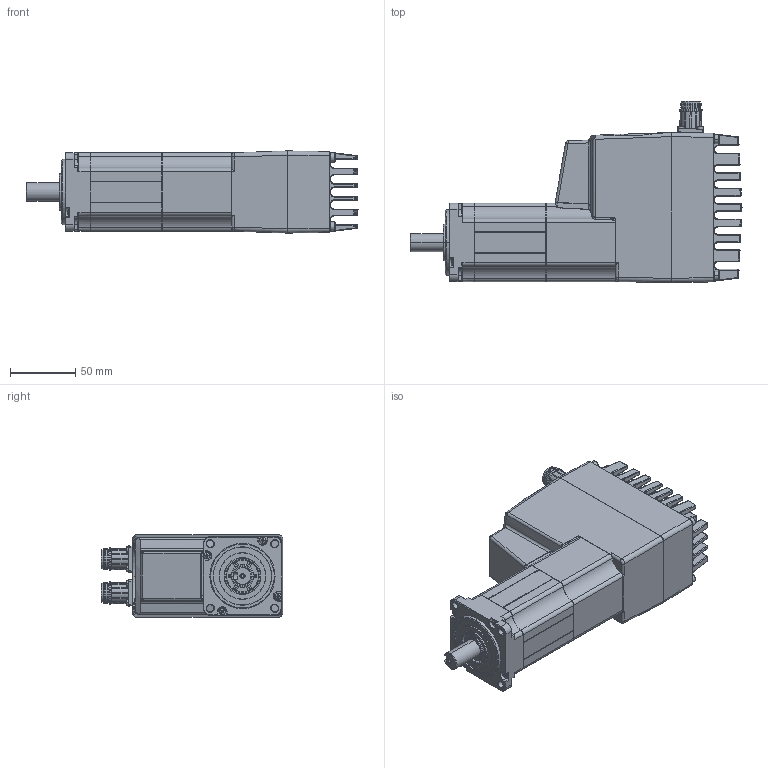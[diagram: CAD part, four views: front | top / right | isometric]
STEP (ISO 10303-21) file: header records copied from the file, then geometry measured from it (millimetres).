
FILE_DESCRIPTION((''),'2;1');
FILE_NAME('STEPPERASSY_ASM','2022-08-13T13:39:31',('Administrator'),(''),'CREO PARAMETRIC BY PTC INC, 2022014','CREO PARAMETRIC BY PTC INC, 2022014','');
FILE_SCHEMA(('AUTOMOTIVE_DESIGN { 1 0 10303 214 1 1 1 1 }'));
Products named in the file (8): NEW_REAR_PART; 400_F; SHAFT_KEY; NEW_CONNECTORS; FINS_BOLT_NEW; 400_BEARING; MAC400_ASM; STEPPERASSY_ASM
Assembly tree (10 placements, depth 3):
  STEPPERASSY_ASM
    MAC400_ASM
      NEW_REAR_PART
      400_F
      SHAFT_KEY
      NEW_CONNECTORS
      FINS_BOLT_NEW  x4
      400_BEARING
Bounding box: 254.5 x 138.87 x 63 mm (x, y, z)
Volume: 1001829.7 mm3; surface area: 145824.1 mm2
Topology: 10 solids, 23 shells, 3379 faces, 8164 edges, 4758 vertices
Faces by surface type: cylinder 1352, plane 731, bspline 502, torus 308, cone 258, sphere 214, extrusion 14
Entity records: 161982 total; most frequent: CARTESIAN_POINT 58375, ORIENTED_EDGE 15630, DIRECTION 13890, PRESENTATION_STYLE_ASSIGNMENT 8410, STYLED_ITEM 7881, CURVE_STYLE 7874, EDGE_CURVE 7815, AXIS2_PLACEMENT_3D 5571
